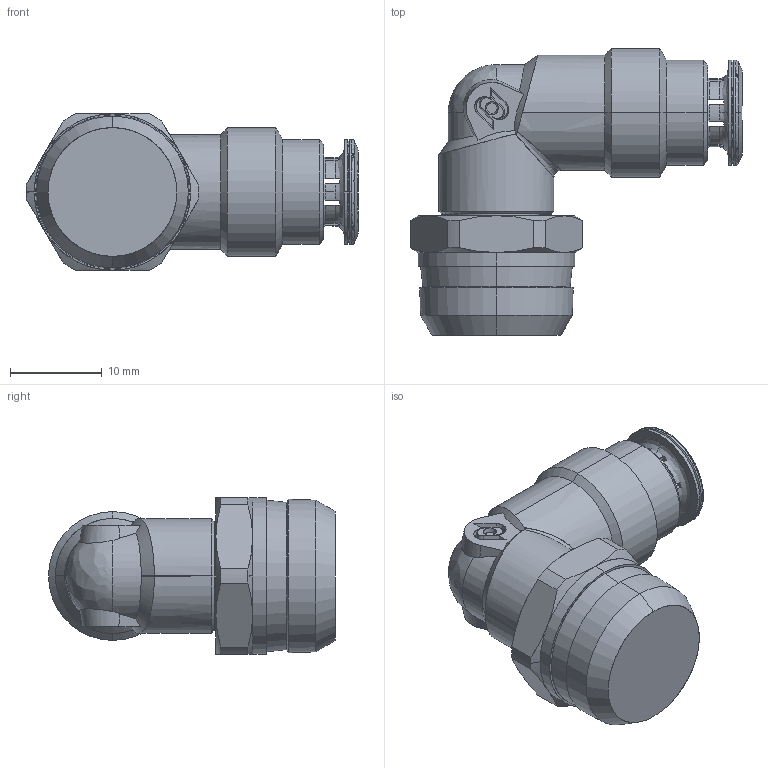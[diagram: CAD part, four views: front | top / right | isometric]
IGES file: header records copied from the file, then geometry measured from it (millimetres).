
Start section: SolidWorks IGES file using analytic representation for surfaces
Global section: file name: K:\Disegni\Disegni Esecutivi\ALPHA TECHNOLOGIES\84000\Assiemi-84000\84111\84111_igs\84111H0007.IGS; native system: SolidWorks 2016; preprocessor: SolidWorks 2016; author: cad07; date: 191212.093838; units: millimetre
Bounding box: 36.1 x 31.2 x 17 mm (x, y, z)
Surface area: 2839.7 mm2 (no closed solid volume)
Topology: 0 solids, 0 shells, 180 faces, 1926 edges, 1923 vertices
Faces by surface type: revolution 100, bspline 80
